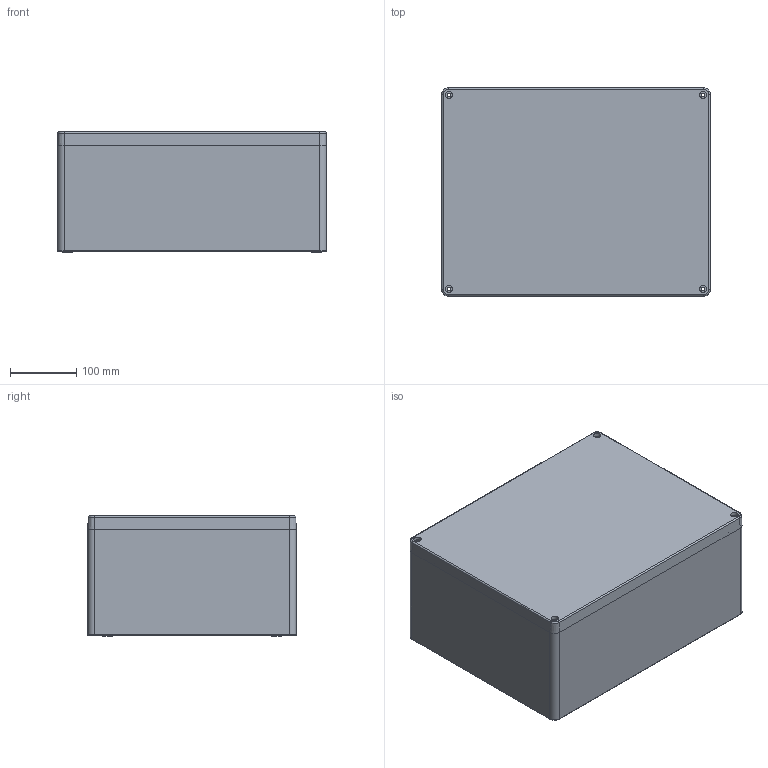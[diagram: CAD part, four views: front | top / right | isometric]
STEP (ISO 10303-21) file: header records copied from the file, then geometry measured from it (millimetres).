
FILE_DESCRIPTION (( 'STEP AP203' ), '1' );
FILE_NAME ('ALU ASSY 400310180.STEP', '2024-08-27T09:51:35', ( '' ), ( '' ), 'SwSTEP 2.0', 'SolidWorks 2018', '' );
FILE_SCHEMA (( 'CONFIG_CONTROL_DESIGN' ));
Length unit declared in the file: millimetre
Products named in the file (3): ALU BASE 400310180; ALU ASSY 400310180; ALU LID 400310180
Assembly tree (2 placements, depth 2):
  ALU ASSY 400310180
    ALU BASE 400310180
    ALU LID 400310180
Bounding box: 404.6 x 313.6 x 181 mm (x, y, z)
Volume: 3088782.8 mm3; surface area: 1048371.1 mm2
Topology: 2 solids, 2 shells, 625 faces, 1524 edges, 952 vertices
Faces by surface type: plane 236, cylinder 192, cone 135, torus 51, bspline 11
Entity records: 21436 total; most frequent: CARTESIAN_POINT 6143, DIRECTION 3287, ORIENTED_EDGE 3028, EDGE_CURVE 1514, AXIS2_PLACEMENT_3D 1230, VERTEX_POINT 952, LINE 827, VECTOR 827
